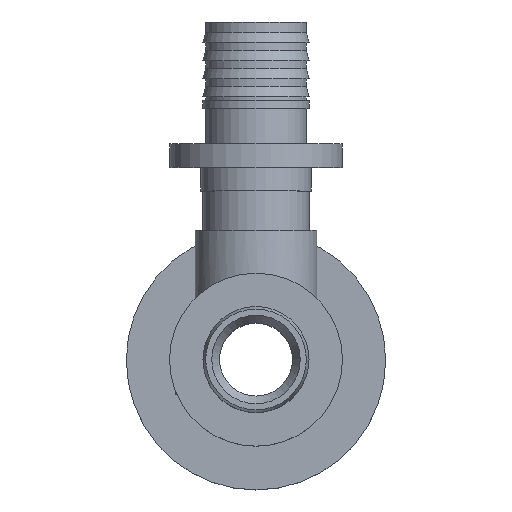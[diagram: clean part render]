
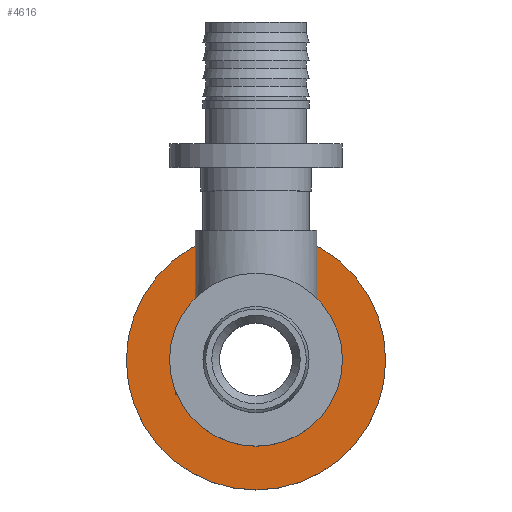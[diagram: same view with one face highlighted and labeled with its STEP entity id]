
A CAD part, top view. The second image highlights one B-rep face of the part: STEP entity #4616.
In plain terms, the highlighted planar face has unit normal (0, 0, 1).
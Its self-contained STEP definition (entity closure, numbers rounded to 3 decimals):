
#79=FACE_BOUND('',#1185,.T.);
#243=CIRCLE('',#4930,16.5);
#244=CIRCLE('',#4931,16.5);
#301=CIRCLE('',#5014,10.25);
#302=CIRCLE('',#5015,10.25);
#889=FACE_OUTER_BOUND('',#1184,.T.);
#1184=EDGE_LOOP('',(#4223,#4224));
#1185=EDGE_LOOP('',(#4225,#4226));
#2157=VERTEX_POINT('',#10067);
#2158=VERTEX_POINT('',#10069);
#2211=VERTEX_POINT('',#10218);
#2212=VERTEX_POINT('',#10219);
#2820=EDGE_CURVE('',#2157,#2158,#243,.T.);
#2821=EDGE_CURVE('',#2158,#2157,#244,.T.);
#2890=EDGE_CURVE('',#2211,#2212,#301,.T.);
#2891=EDGE_CURVE('',#2212,#2211,#302,.T.);
#4223=ORIENTED_EDGE('',*,*,#2821,.F.);
#4224=ORIENTED_EDGE('',*,*,#2820,.F.);
#4225=ORIENTED_EDGE('',*,*,#2890,.T.);
#4226=ORIENTED_EDGE('',*,*,#2891,.T.);
#4369=PLANE('',#5016);
#4616=ADVANCED_FACE('',(#889,#79),#4369,.T.);
#4930=AXIS2_PLACEMENT_3D('',#10070,#5838,#5839);
#4931=AXIS2_PLACEMENT_3D('',#10071,#5840,#5841);
#5014=AXIS2_PLACEMENT_3D('',#10220,#6018,#6019);
#5015=AXIS2_PLACEMENT_3D('',#10221,#6020,#6021);
#5016=AXIS2_PLACEMENT_3D('',#10223,#6023,#6024);
#5838=DIRECTION('center_axis',(0.,0.,-1.));
#5839=DIRECTION('ref_axis',(1.,0.,0.));
#5840=DIRECTION('center_axis',(0.,0.,-1.));
#5841=DIRECTION('ref_axis',(1.,0.,0.));
#6018=DIRECTION('center_axis',(0.,0.,-1.));
#6019=DIRECTION('ref_axis',(1.,0.,0.));
#6020=DIRECTION('center_axis',(0.,0.,-1.));
#6021=DIRECTION('ref_axis',(1.,0.,0.));
#6023=DIRECTION('center_axis',(0.,0.,1.));
#6024=DIRECTION('ref_axis',(1.,0.,0.));
#10067=CARTESIAN_POINT('',(0.,-16.5,28.5));
#10069=CARTESIAN_POINT('',(0.,16.5,28.5));
#10070=CARTESIAN_POINT('Origin',(0.,0.,28.5));
#10071=CARTESIAN_POINT('Origin',(0.,0.,28.5));
#10218=CARTESIAN_POINT('',(0.,10.25,28.5));
#10219=CARTESIAN_POINT('',(0.,-10.25,28.5));
#10220=CARTESIAN_POINT('Origin',(0.,0.,28.5));
#10221=CARTESIAN_POINT('Origin',(0.,0.,28.5));
#10223=CARTESIAN_POINT('Origin',(0.,16.5,28.5));
